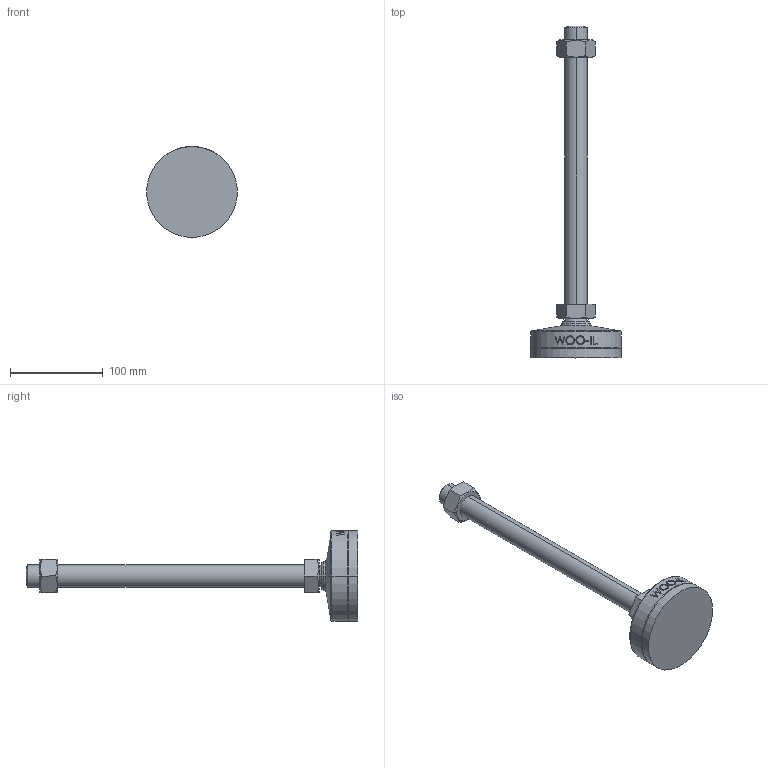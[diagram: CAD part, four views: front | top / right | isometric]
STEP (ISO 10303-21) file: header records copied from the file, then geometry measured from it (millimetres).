
FILE_DESCRIPTION (( 'STEP AP214' ), '1' );
FILE_NAME ('MFNR98-M24-300.step', '2021-02-22T09:09:40', ( '' ), ( '' ), 'SwSTEP 2.0', 'SolidWorks 2019', '' );
FILE_SCHEMA (( 'AUTOMOTIVE_DESIGN' ));
Length unit declared in the file: millimetre
Products named in the file (2): MFNR98-M24-300
Bounding box: 98 x 358 x 98 mm (x, y, z)
Volume: 409206.7 mm3; surface area: 55806 mm2
Topology: 2 solids, 2 shells, 103 faces, 239 edges, 152 vertices
Faces by surface type: plane 47, cone 18, cylinder 16, bspline 16, torus 4, sphere 2
Entity records: 4543 total; most frequent: CARTESIAN_POINT 2264, ORIENTED_EDGE 478, DIRECTION 423, EDGE_CURVE 239, AXIS2_PLACEMENT_3D 161, VERTEX_POINT 152, EDGE_LOOP 117, FACE_OUTER_BOUND 103
